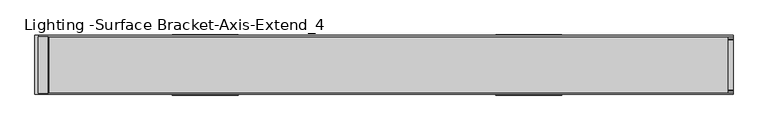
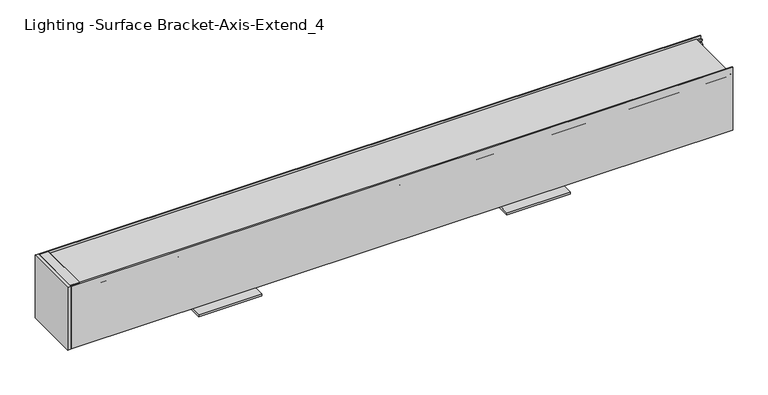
"""IFC4 building model written with IfcOpenShell, lengths in millimetres: light fixture geometry, Lighting -Surface Bracket-Axis-Extend_4 : EX4S-900-80-35-SO-4."""

from ifc_helpers import new_model, si_unit, point, frame, frame_2d, origin, place, context, project, spatial, polyline, circle_curve, trimmed, segment, composite_curve, outline, extrude, source, transform, mapped, element, save


def lighting_surface_bracket_axis_extend_4_31f86dbd(model_context):
    return source(origin(), model_context, "Body", "SweptSolid", [
        extrude(outline(polyline([(14.05509, 19.05), (70.87489, 19.05), (70.87489, 3.9878), (96.2749235, 3.9878), (96.2749235, 0.0), (-11.3449435, 0.0), (-11.3449435, 3.9878), (14.05509, 3.9878), (14.05509, 19.05)])), frame((-410.2911713, 0.0, 0.0), z_axis=(1.0, 0.0, 0.0), x_axis=(0.0, 1.0, 0.0)), (0.0, 0.0, 1.0), 118.69928),
        extrude(outline(polyline([(14.05509, 19.05), (70.87489, 19.05), (70.87489, 3.9878), (96.2749235, 3.9878), (96.2749235, 0.0), (-11.3449435, 0.0), (-11.3449435, 3.9878), (14.05509, 3.9878), (14.05509, 19.05)])), frame((-989.4895233, 0.0, 0.0), z_axis=(1.0, 0.0, 0.0), x_axis=(0.0, 1.0, 0.0)), (0.0, 0.0, 1.0), 118.69928),
        extrude(outline(polyline([(142.7257861, -1210.2764833), (143.8275, -1211.201027), (143.8275, -1228.5898833), (139.2432981, -1228.5898833), (139.2432981, -1217.9218833), (142.0495, -1217.9218833), (142.0495, -1211.0702333), (141.25575, -1211.0702333), (141.25575, -1210.2764833), (142.7257861, -1210.2764833)])), frame((0.0, -8.28802, 0.0), z_axis=(0.0, 1.0, 0.0), x_axis=(0.0, 0.0, 1.0)), (0.0, 0.0, 1.0), 101.50602),
        extrude(outline(polyline([(-1228.5898833, 95.25), (-1228.5898833, -10.32002), (-1234.9398833, -10.32002), (-1234.9398833, 95.25), (-1228.5898833, 95.25)])), frame((0.0, 0.0, 19.05), z_axis=(0.0, 0.0, 1.0), x_axis=(1.0, 0.0, 0.0)), (0.0, 0.0, 1.0), 124.7775),
        extrude(outline(composite_curve([segment(polyline([(87.4187262, 139.0954791), (-2.4887462, 139.0954791), (-2.8274381, 132.6328537)]), True, "CONTINUOUS"), segment(trimmed(circle_curve(frame_2d((-5.57022, 129.63398)), 4.064), [point((-2.8274381, 132.6328537))], [point((-3.6979014, 126.0269703))], False, "CARTESIAN"), True, "CONTINUOUS"), segment(trimmed(circle_curve(frame_2d((-0.465364, 126.8158257)), 3.3274001), [point((-3.6979014, 126.0269703))], [point((-2.8826156, 124.5292375))], True, "CARTESIAN"), True, "CONTINUOUS"), segment(trimmed(circle_curve(frame_2d((4.5536623, 131.5635508)), 10.2362001), [point((-2.8826156, 124.5292375))], [point((-1.5279266, 123.3298355))], True, "CARTESIAN"), True, "CONTINUOUS"), segment(trimmed(circle_curve(frame_2d((-2.0183773, 122.6658262)), 0.8255), [point((-1.5279266, 123.3298355))], [point((-2.508828, 122.0018169))], False, "CARTESIAN"), True, "CONTINUOUS"), segment(trimmed(circle_curve(frame_2d((4.5536631, 131.5635517)), 11.8872013), [point((-2.508828, 122.0018169))], [point((-4.0820152, 123.3946708))], False, "CARTESIAN"), True, "CONTINUOUS"), segment(trimmed(circle_curve(frame_2d((-0.465364, 126.8158257)), 4.9784001), [point((-4.0820152, 123.3946708))], [point((-5.4269007, 127.22524))], False, "CARTESIAN"), True, "CONTINUOUS"), segment(trimmed(circle_curve(frame_2d((-5.57022, 129.63398)), 2.413), [point((-5.4269007, 127.22524))], [point((-3.7914141, 131.2644458))], True, "CARTESIAN"), True, "CONTINUOUS"), segment(trimmed(circle_curve(frame_2d((-1.9189869, 132.9807256)), 2.54), [point((-3.7914141, 131.2644458))], [point((-4.4555059, 133.1136589))], False, "CARTESIAN"), True, "CONTINUOUS"), segment(polyline([(-4.4555059, 133.1136589), (-4.142012, 139.0954791), (-7.14502, 139.0954791), (-7.14502, 141.00048), (92.075, 141.00048), (92.075, 139.0954791), (89.071992, 139.0954791), (89.3854859, 133.1136589)]), True, "CONTINUOUS"), segment(trimmed(circle_curve(frame_2d((86.8489669, 132.9807256)), 2.54), [point((89.3854859, 133.1136589))], [point((88.7213941, 131.2644458))], False, "CARTESIAN"), True, "CONTINUOUS"), segment(trimmed(circle_curve(frame_2d((90.5002, 129.63398)), 2.413), [point((88.7213941, 131.2644458))], [point((90.3568807, 127.22524))], True, "CARTESIAN"), True, "CONTINUOUS"), segment(trimmed(circle_curve(frame_2d((85.395344, 126.8158257)), 4.9784001), [point((90.3568807, 127.22524))], [point((89.0119952, 123.3946708))], False, "CARTESIAN"), True, "CONTINUOUS"), segment(trimmed(circle_curve(frame_2d((80.3763169, 131.5635517)), 11.8872013), [point((89.0119952, 123.3946708))], [point((87.438808, 122.0018169))], False, "CARTESIAN"), True, "CONTINUOUS"), segment(trimmed(circle_curve(frame_2d((86.9483573, 122.6658262)), 0.8255), [point((87.438808, 122.0018169))], [point((86.4579066, 123.3298355))], False, "CARTESIAN"), True, "CONTINUOUS"), segment(trimmed(circle_curve(frame_2d((80.3763177, 131.5635508)), 10.2362001), [point((86.4579066, 123.3298355))], [point((87.8125956, 124.5292375))], True, "CARTESIAN"), True, "CONTINUOUS"), segment(trimmed(circle_curve(frame_2d((85.395344, 126.8158257)), 3.3274001), [point((87.8125956, 124.5292375))], [point((88.6278814, 126.0269703))], True, "CARTESIAN"), True, "CONTINUOUS"), segment(trimmed(circle_curve(frame_2d((90.5002, 129.63398)), 4.064), [point((88.6278814, 126.0269703))], [point((87.7574181, 132.6328537))], False, "CARTESIAN"), True, "CONTINUOUS"), segment(polyline([(87.7574181, 132.6328537), (87.4187262, 139.0954791)]), True, "CONTINUOUS")], self_intersect=False)), frame((-1213.6038833, 0.0, 0.0), z_axis=(1.0, 0.0, 0.0), x_axis=(0.0, 1.0, 0.0)), (0.0, 0.0, 1.0), 1219.2),
        extrude(outline(composite_curve([segment(polyline([(93.218, 128.9177), (91.3785797, 128.9177)]), True, "CONTINUOUS"), segment(trimmed(circle_curve(frame_2d((89.8722297, 128.9177)), 1.5063501), [point((91.3785797, 128.9177))], [point((89.1190546, 127.6131626))], False, "CARTESIAN"), True, "CONTINUOUS"), segment(trimmed(circle_curve(frame_2d((90.3102121, 129.6763079)), 2.382315), [point((89.1190546, 127.6131626))], [point((87.9356516, 129.8683682))], False, "CARTESIAN"), True, "CONTINUOUS"), segment(polyline([(87.9356516, 129.8683682), (91.313, 132.7023), (91.313, 130.9497), (93.218, 130.9497), (93.218, 137.4775), (91.313, 137.4775), (91.313, 135.9535), (89.662, 136.0400252), (89.662, 138.7475), (93.218, 138.7475), (93.218, 143.8275), (95.25, 143.8275), (95.25, 19.05), (-10.32002, 19.05), (-10.32002, 143.8275), (-8.28802, 143.8275), (-8.28802, 138.7475), (-4.73202, 138.7475), (-4.73202, 136.0400252), (-6.38302, 135.9535), (-6.38302, 137.4775), (-8.28802, 137.4775), (-8.28802, 130.9497), (-6.38302, 130.9497), (-6.38302, 132.7023), (-3.0056716, 129.8683682)]), True, "CONTINUOUS"), segment(trimmed(circle_curve(frame_2d((-5.3802321, 129.6763079)), 2.382315), [point((-3.0056716, 129.8683682))], [point((-4.1890746, 127.6131626))], False, "CARTESIAN"), True, "CONTINUOUS"), segment(trimmed(circle_curve(frame_2d((-4.9422497, 128.9177)), 1.5063501), [point((-4.1890746, 127.6131626))], [point((-6.4485997, 128.9177))], False, "CARTESIAN"), True, "CONTINUOUS"), segment(polyline([(-6.4485997, 128.9177), (-8.28802, 128.9177), (-8.28802, 21.082), (93.218, 21.082), (93.218, 128.9177)]), True, "CONTINUOUS")], self_intersect=False)), frame((-1228.5898833, 0.0, 0.0), z_axis=(1.0, 0.0, 0.0), x_axis=(0.0, 1.0, 0.0)), (0.0, 0.0, 1.0), 1243.3427),
    ])


if __name__ == "__main__":
    model = new_model("IFC4")
    model_context = context("Model", 3, world=origin())
    ifc_project = project(units=[si_unit("LENGTHUNIT", "METRE", prefix="MILLI")], contexts=[model_context])
    site = spatial("IfcSite", under=ifc_project)
    building = spatial("IfcBuilding", under=site)
    placement = place(None, origin())
    lighting_surface_bracket_axis_extend_4_shape = lighting_surface_bracket_axis_extend_4_31f86dbd(model_context)
    element("IfcLightFixture", 1, ObjectType="Lighting -Surface Bracket-Axis-Extend_4 : EX4S-900-80-35-SO-4", at=placement, inside=building, context=model_context, shape_type="MappedRepresentation", body=[
        mapped(lighting_surface_bracket_axis_extend_4_shape, transform((0.0, 0.0, 0.0), x_axis=(1.0, 0.0, 0.0), y_axis=(0.0, 1.0, 0.0), z_axis=(0.0, 0.0, 1.0))),
    ])
    save(model, "model.ifc")
